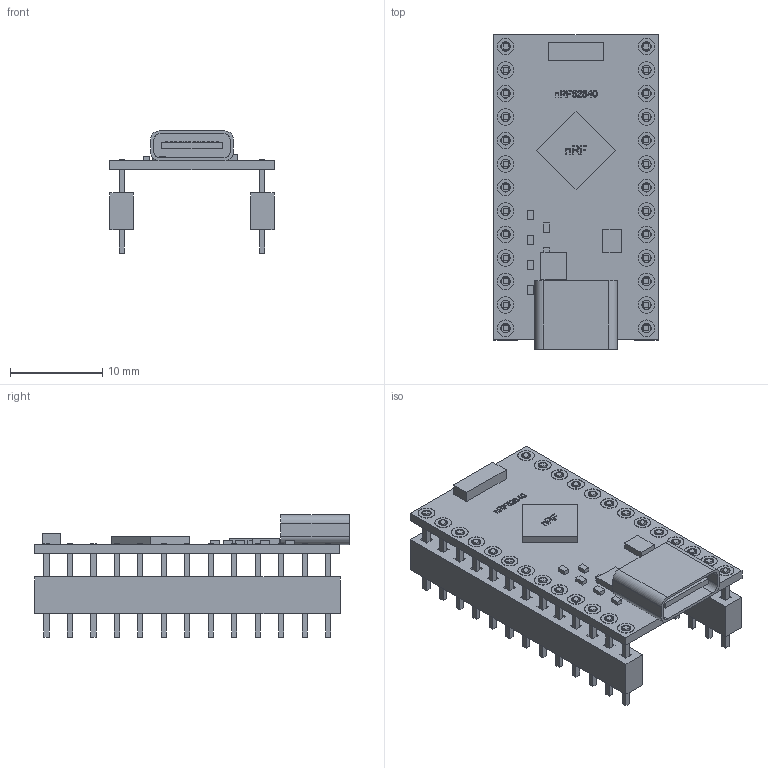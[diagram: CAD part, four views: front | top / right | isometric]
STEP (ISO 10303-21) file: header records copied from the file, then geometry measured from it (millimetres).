
FILE_DESCRIPTION(('Open CASCADE Model'),'2;1');
FILE_NAME('Open CASCADE Shape Model','2026-10-09T18:49:12',('Author'),( 'Open CASCADE'),'Open CASCADE STEP processor 7.9','Open CASCADE 7.9' ,'Unknown');
FILE_SCHEMA(('AUTOMOTIVE_DESIGN { 1 0 10303 214 1 1 1 1 }'));
Length unit declared in the file: millimetre
Products named in the file (83): NiceNano_Clone_Approx; modulePCB; pin0_0; annulus0_0; pin0_1; annulus0_1; pin0_2; annulus0_2; pin0_3; annulus0_3; pin0_4; annulus0_4; pin0_5; annulus0_5; pin0_6; annulus0_6; pin0_7; annulus0_7; pin0_8; annulus0_8; pin0_9; annulus0_9; pin0_10; annulus0_10; pin0_11; annulus0_11; pin0_12; annulus0_12; socket0; pin1_0; annulus1_0; pin1_1; annulus1_1; pin1_2; annulus1_2; pin1_3; annulus1_3; pin1_4; annulus1_4; pin1_5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
Assembly tree (82 placements, depth 2):
  NiceNano_Clone_Approx
    modulePCB
    pin0_0
    annulus0_0
    pin0_1
    annulus0_1
    pin0_2
    annulus0_2
    pin0_3
    annulus0_3
    pin0_4
    annulus0_4
    pin0_5
    annulus0_5
    pin0_6
    annulus0_6
    pin0_7
    annulus0_7
    pin0_8
    annulus0_8
    pin0_9
    annulus0_9
    pin0_10
    annulus0_10
    pin0_11
    annulus0_11
    pin0_12
    annulus0_12
    socket0
    pin1_0
    annulus1_0
    pin1_1
    annulus1_1
    pin1_2
    annulus1_2
    pin1_3
    annulus1_3
    pin1_4
    annulus1_4
    pin1_5
    annulus1_5
    pin1_6
    annulus1_6
    pin1_7
    annulus1_7
    pin1_8
    annulus1_8
    pin1_9
    annulus1_9
    pin1_10
    annulus1_10
    pin1_11
    annulus1_11
    pin1_12
    annulus1_12
    socket1
    nRF52840_envelope
    mark_56
    crystal
    powerIC_envelope
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Bounding box: 17.78 x 34.01 x 13.2 mm (x, y, z)
Volume: 1433.2 mm3; surface area: 3643.8 mm2
Topology: 91 solids, 91 shells, 840 faces, 1893 edges, 1262 vertices
Faces by surface type: plane 616, extrusion 138, cylinder 86
Full cylindrical faces by diameter (mm): 1 x52, 1.8 x26
Entity records: 50195 total; most frequent: CARTESIAN_POINT 9808, DIRECTION 6733, VECTOR 4705, LINE 4567, ORIENTED_EDGE 3786, PCURVE 3786, DEFINITIONAL_REPRESENTATION 3786, EDGE_CURVE 1893
